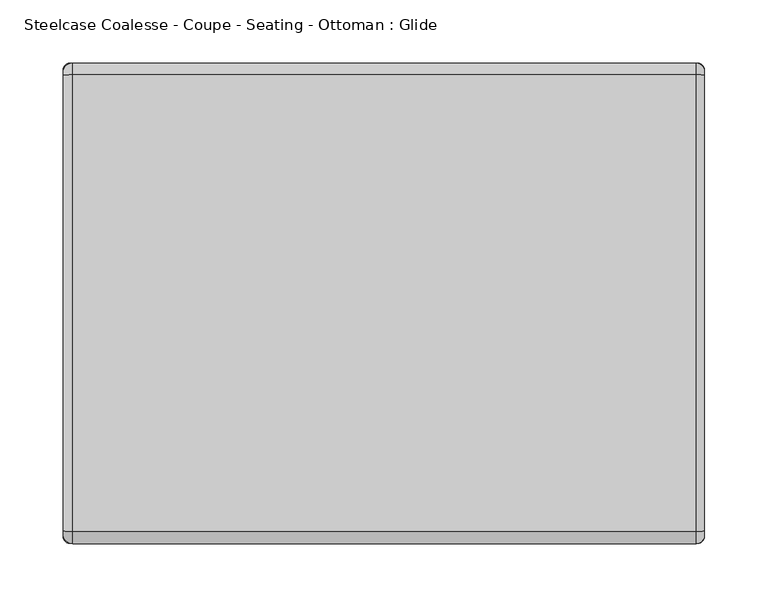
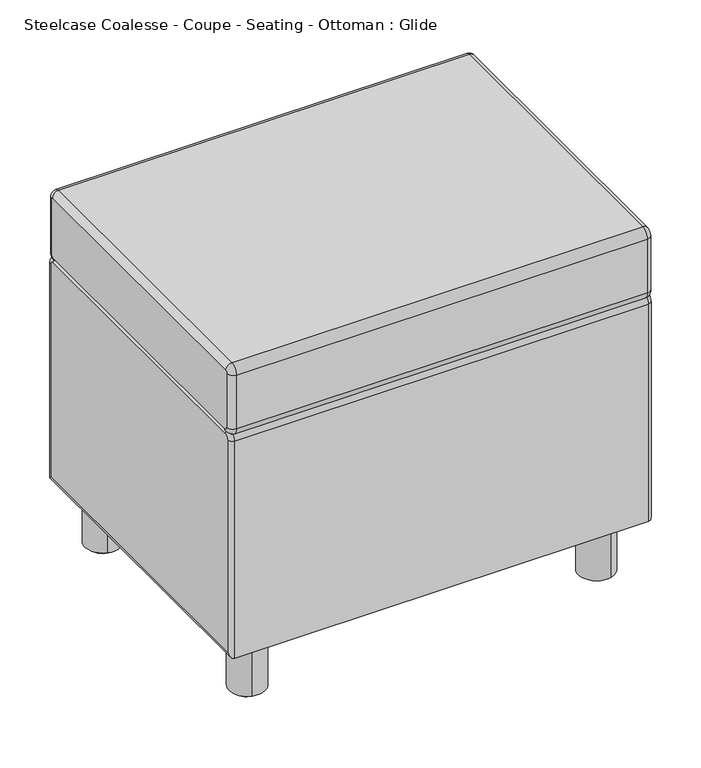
"""IFC4 building model written with IfcOpenShell, lengths in millimetres: furniture geometry, Steelcase Coalesse - Coupe - Seating - Ottoman : Glide."""

from ifc_helpers import new_model, si_unit, point, frame, frame_2d, origin, origin_with_axes, place, context, project, spatial, circle_curve, ellipse_curve, trimmed, segment, composite_curve, outline, extrude, source, transform, mapped, element, save
from ifc_brep_helpers import plane_surface, cylinder_surface, revolved_surface, advanced_brep


def steelcase_coalesse_coupe_seating_ottoman_glide_1e6cc4b7(model_context):
    return source(origin(), model_context, "Body", "SolidModel", [
        advanced_brep(
        [(-414.8226096, 592.0292413, 352.5869305), (-414.8226096, 581.8692849, 362.7468869), (-409.7426096, 581.8692849, 357.6668869), (-409.7426096, 586.9492413, 352.5869305), (-912.6624158, 592.0292413, 352.5869305), (-912.6624158, 581.8692849, 362.7468869), (-917.7424158, 586.9492413, 352.5869305), (-917.7424158, 581.8692849, 357.6668869), (-409.7426096, 586.9492413, 81.5975451), (-414.8226096, 592.0292413, 76.5175451), (-912.6624158, 592.0292413, 76.5175451), (-917.7424158, 586.9492413, 81.5975451), (-409.7426096, 217.1328034, 81.5975451), (-414.8226096, 212.0528034, 76.5175451), (-912.6624158, 212.0528034, 76.5175451), (-917.7424158, 217.1328034, 81.5975451), (-409.7426096, 217.1328034, 352.5869305), (-414.8226096, 212.0528034, 352.5869305), (-912.6624158, 212.0528034, 352.5869305), (-917.7424158, 217.1328034, 352.5869305), (-409.7426096, 222.2127598, 357.6668869), (-414.8226096, 222.2127598, 362.7468869), (-912.6624158, 222.2127598, 362.7468869), (-917.7424158, 222.2127598, 357.6668869)],
        [
            (0, 1, circle_curve(frame((-414.8226096, 581.8692849, 352.5869305), z_axis=(1.0, 0.0, 0.0), x_axis=(0.0, 0.0, 1.0)), 10.1599564)),
            (1, 2, circle_curve(frame((-414.8226096, 581.8692849, 357.6668869), z_axis=(0.0, 1.0, 0.0), x_axis=(0.0, 0.0, -1.0)), 5.08)),
            (2, 3, circle_curve(frame((-409.7426096, 581.8692849, 352.5869305), z_axis=(-1.0, 0.0, 0.0), x_axis=(0.0, 0.0, 1.0)), 5.0799564)),
            (3, 0, circle_curve(frame((-414.8226096, 586.9492413, 352.5869305), z_axis=(0.0, 0.0, 1.0), x_axis=(0.0, -1.0, 0.0)), 5.08)),
            (0, 4),
            (4, 5, circle_curve(frame((-912.6624158, 581.8692849, 352.5869305), z_axis=(1.0, 0.0, 0.0), x_axis=(0.0, 0.0, 1.0)), 10.1599564)),
            (5, 1),
            (4, 6, circle_curve(frame((-912.6624158, 586.9492413, 352.5869305), z_axis=(0.0, 0.0, 1.0), x_axis=(0.0, -1.0, 0.0)), 5.08)),
            (6, 7, circle_curve(frame((-917.7424158, 581.8692849, 352.5869305), z_axis=(1.0, 0.0, 0.0), x_axis=(0.0, 0.0, 1.0)), 5.0799564)),
            (7, 5, circle_curve(frame((-912.6624158, 581.8692849, 357.6668869), z_axis=(0.0, 1.0, 0.0), x_axis=(0.0, 0.0, -1.0)), 5.08)),
            (3, 8),
            (8, 9, ellipse_curve(frame((-414.8226096, 586.9492413, 81.5975451), z_axis=(0.0, 0.7071067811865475, 0.7071067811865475), x_axis=(0.0, -0.7071067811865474, 0.7071067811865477)), 7.1842049, 5.08)),
            (9, 0),
            (9, 10),
            (10, 4),
            (10, 11, ellipse_curve(frame((-912.6624158, 586.9492413, 81.5975451), z_axis=(0.0, 0.7071067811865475, 0.7071067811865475), x_axis=(0.0, -0.7071067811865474, 0.7071067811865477)), 7.1842049, 5.08)),
            (11, 6),
            (8, 12),
            (12, 13, ellipse_curve(frame((-414.8226096, 217.1328034, 81.5975451), z_axis=(0.0, 0.7071067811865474, -0.7071067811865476), x_axis=(0.0, 0.7071067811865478, 0.7071067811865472)), 7.1842049, 5.08)),
            (13, 9),
            (13, 14),
            (14, 10),
            (14, 15, ellipse_curve(frame((-912.6624158, 217.1328034, 81.5975451), z_axis=(0.0, 0.7071067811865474, -0.7071067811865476), x_axis=(0.0, 0.7071067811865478, 0.7071067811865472)), 7.1842049, 5.08)),
            (15, 11),
            (12, 16),
            (16, 17, circle_curve(frame((-414.8226096, 217.1328034, 352.5869305), z_axis=(0.0, 0.0, -1.0), x_axis=(0.0, 1.0, 0.0)), 5.08)),
            (17, 13),
            (17, 18),
            (18, 14),
            (18, 19, circle_curve(frame((-912.6624158, 217.1328034, 352.5869305), z_axis=(0.0, 0.0, -1.0), x_axis=(0.0, 1.0, 0.0)), 5.08)),
            (19, 15),
            (16, 20, circle_curve(frame((-409.7426096, 222.2127598, 352.5869305), z_axis=(-1.0, 0.0, 0.0), x_axis=(0.0, -1.0, 0.0)), 5.0799564)),
            (20, 21, circle_curve(frame((-414.8226096, 222.2127598, 357.6668869), z_axis=(0.0, -1.0, 0.0), x_axis=(0.0, 0.0, -1.0)), 5.08)),
            (21, 17, circle_curve(frame((-414.8226096, 222.2127598, 352.5869305), z_axis=(1.0, 0.0, 0.0), x_axis=(0.0, -1.0, 0.0)), 10.1599564)),
            (21, 22),
            (22, 18, circle_curve(frame((-912.6624158, 222.2127598, 352.5869305), z_axis=(1.0, 0.0, 0.0), x_axis=(0.0, -1.0, 0.0)), 10.1599564)),
            (22, 23, circle_curve(frame((-912.6624158, 222.2127598, 357.6668869), z_axis=(0.0, -1.0, 0.0), x_axis=(0.0, 0.0, -1.0)), 5.08)),
            (23, 19, circle_curve(frame((-917.7424158, 222.2127598, 352.5869305), z_axis=(1.0, 0.0, 0.0), x_axis=(0.0, -1.0, 0.0)), 5.0799564)),
            (2, 20),
            (1, 21),
            (5, 22),
            (7, 23),
        ],
        [
            revolved_surface(trimmed(ellipse_curve(frame((-414.8226096, 581.8692849, 357.6668869), z_axis=(0.0, -1.0, 0.0), x_axis=(0.0, 0.0, -1.0)), 5.08, 5.08), [point((-409.7426096, 581.8692849, 357.6668869))], [point((-414.8226096, 581.8692849, 362.7468869))], True, "CARTESIAN"), (-663.917922, 581.8692849, 352.5869305), (-1.0, 0.0, 0.0)),
            cylinder_surface(frame((-663.917922, 581.8692849, 352.5869305), z_axis=(-1.0, 0.0, 0.0), x_axis=(0.0, 0.0, 1.0)), 10.1599564),
            revolved_surface(trimmed(ellipse_curve(frame((-912.6624158, 581.8692849, 357.6668869), z_axis=(0.0, -1.0, 0.0), x_axis=(0.0, 0.0, -1.0)), 5.08, 5.08), [point((-912.6624158, 581.8692849, 362.7468869))], [point((-917.7424158, 581.8692849, 357.6668869))], True, "CARTESIAN"), (-663.917922, 581.8692849, 352.5869305), (-1.0, 0.0, 0.0)),
            cylinder_surface(frame((-414.8226096, 586.9492413, 352.5869305), z_axis=(0.0, 0.0, 1.0), x_axis=(0.0, -1.0, 0.0)), 5.08),
            plane_surface(frame((-414.8226096, 592.0292413, 352.5869305), z_axis=(0.0, 1.0, 0.0), x_axis=(0.0, 0.0, -1.0))),
            cylinder_surface(frame((-912.6624158, 586.9492413, 352.5869305), z_axis=(0.0, 0.0, 1.0), x_axis=(0.0, -1.0, 0.0)), 5.08),
            cylinder_surface(frame((-414.8226096, 584.4092849, 81.5975451), z_axis=(0.0, 1.0, 0.0), x_axis=(0.0, 0.0, 1.0)), 5.08),
            plane_surface(frame((-414.8226096, 592.0292413, 76.5175451), z_axis=(0.0, 0.0, -1.0), x_axis=(0.0, -1.0, 0.0))),
            cylinder_surface(frame((-912.6624158, 584.4092849, 81.5975451), z_axis=(0.0, 1.0, 0.0), x_axis=(0.0, 0.0, 1.0)), 5.08),
            cylinder_surface(frame((-414.8226096, 217.1328034, 84.1375015), z_axis=(0.0, 0.0, -1.0), x_axis=(0.0, 1.0, 0.0)), 5.08),
            plane_surface(frame((-414.8226096, 212.0528034, 76.5175451), z_axis=(0.0, -1.0, 0.0), x_axis=(0.0, 0.0, 1.0))),
            cylinder_surface(frame((-912.6624158, 217.1328034, 84.1375015), z_axis=(0.0, 0.0, -1.0), x_axis=(0.0, 1.0, 0.0)), 5.08),
            revolved_surface(trimmed(ellipse_curve(frame((-414.8226096, 217.1328034, 352.5869305), z_axis=(0.0, 0.0, -1.0), x_axis=(0.0, 1.0, 0.0)), 5.08, 5.08), [point((-409.7426096, 217.1328034, 352.5869305))], [point((-414.8226096, 212.0528034, 352.5869305))], True, "CARTESIAN"), (-663.917922, 222.2127598, 352.5869305), (-1.0, 0.0, 0.0)),
            cylinder_surface(frame((-663.917922, 222.2127598, 352.5869305), z_axis=(-1.0, 0.0, 0.0), x_axis=(0.0, -1.0, 0.0)), 10.1599564),
            revolved_surface(trimmed(ellipse_curve(frame((-912.6624158, 217.1328034, 352.5869305), z_axis=(0.0, 0.0, -1.0), x_axis=(0.0, 1.0, 0.0)), 5.08, 5.08), [point((-912.6624158, 212.0528034, 352.5869305))], [point((-917.7424158, 217.1328034, 352.5869305))], True, "CARTESIAN"), (-663.917922, 222.2127598, 352.5869305), (-1.0, 0.0, 0.0)),
            plane_surface(frame((-409.7426096, 222.2127598, 355.1269305), z_axis=(1.0, 0.0, 0.0), x_axis=(0.0, 1.0, 0.0))),
            cylinder_surface(frame((-414.8226096, 222.2127598, 357.6668869), z_axis=(0.0, -1.0, 0.0), x_axis=(0.0, 0.0, -1.0)), 5.08),
            plane_surface(frame((-414.8226096, 222.2127598, 362.7468869), z_axis=(0.0, 0.0, 1.0), x_axis=(0.0, 1.0, 0.0))),
            cylinder_surface(frame((-912.6624158, 222.2127598, 357.6668869), z_axis=(0.0, -1.0, 0.0), x_axis=(0.0, 0.0, -1.0)), 5.08),
            plane_surface(frame((-917.7424158, 222.2127598, 357.6668869), z_axis=(-1.0, 0.0, 0.0), x_axis=(0.0, 1.0, 0.0))),
        ],
        [
            (0, [[1, 2, 3, 4]]),
            (1, [[-1, 5, 6, 7]]),
            (2, [[-6, 8, 9, 10]]),
            (3, [[-4, 11, 12, 13]]),
            (4, [[-5, -13, 14, 15]]),
            (5, [[-8, -15, 16, 17]]),
            (6, [[-12, 18, 19, 20]]),
            (7, [[-14, -20, 21, 22]]),
            (8, [[-16, -22, 23, 24]]),
            (9, [[-19, 25, 26, 27]]),
            (10, [[-21, -27, 28, 29]]),
            (11, [[-23, -29, 30, 31]]),
            (12, [[-26, 32, 33, 34]]),
            (13, [[-28, -34, 35, 36]]),
            (14, [[-30, -36, 37, 38]]),
            (15, [[-3, 39, -32, -25, -18, -11]]),
            (16, [[-2, 40, -33, -39]]),
            (17, [[-7, 41, -35, -40]]),
            (18, [[-10, 42, -37, -41]]),
            (19, [[-9, -17, -24, -31, -38, -42]]),
        ],
    ),
        advanced_brep(
        [(-409.7426096, 223.823068, 361.8543153), (-416.0926096, 223.823068, 355.5043153), (-910.1952947, 223.823068, 355.5043153), (-917.7424158, 223.823068, 363.0514364), (-917.7424158, 223.823068, 363.2772809), (-409.7426096, 223.823068, 363.2772809), (-409.7426096, 218.2497942, 367.4275892), (-409.7426096, 580.2589766, 363.2772809), (-409.7426096, 580.2589766, 361.8543153), (-409.7426096, 585.8322505, 367.4275892), (-409.7426096, 585.8322505, 435.7510942), (-409.7426096, 582.2770292, 439.6930278), (-409.7426096, 221.8050154, 439.6930278), (-409.7426096, 218.2497942, 435.7510942), (-416.0926096, 211.8997942, 367.4275892), (-910.1952947, 211.8997942, 367.4275892), (-917.7424158, 219.4469153, 367.4275892), (-917.7424158, 219.4469153, 435.7510942), (-917.7424158, 221.9281856, 438.50226), (-917.7424158, 582.153859, 438.50226), (-917.7424158, 584.6351294, 435.7510942), (-917.7424158, 584.6351294, 367.4275892), (-917.7424158, 580.2589766, 363.0514364), (-917.7424158, 580.2589766, 363.2772809), (-416.0926096, 211.8997942, 435.7510942), (-910.1952947, 211.8997942, 435.7510942), (-416.0926096, 221.1516723, 446.0093276), (-910.1952947, 221.1516723, 446.0093276), (-416.0926096, 582.9303724, 446.0093276), (-910.1952947, 582.9303724, 446.0093276), (-416.0926096, 592.1822505, 435.7510942), (-910.1952947, 592.1822505, 435.7510942), (-416.0926096, 592.1822505, 367.4275892), (-910.1952947, 592.1822505, 367.4275892), (-910.1952947, 580.2589766, 355.5043153), (-416.0926096, 580.2589766, 355.5043153)],
        [
            (0, 1, circle_curve(frame((-416.0926096, 223.823068, 361.8543153), z_axis=(0.0, 1.0, 0.0), x_axis=(0.0, 0.0, -1.0)), 6.35)),
            (1, 2),
            (2, 3, circle_curve(frame((-910.1952947, 223.823068, 363.0514364), z_axis=(0.0, 1.0, 0.0), x_axis=(0.0, 0.0, -1.0)), 7.5471211)),
            (3, 4),
            (4, 5),
            (5, 0),
            (6, 0, circle_curve(frame((-409.7426096, 223.823068, 367.4275892), z_axis=(1.0, 0.0, 0.0), x_axis=(0.0, 0.0, -1.0)), 5.5732738)),
            (5, 7),
            (7, 8),
            (8, 9, circle_curve(frame((-409.7426096, 580.2589766, 367.4275892), z_axis=(1.0, 0.0, 0.0), x_axis=(0.0, 1.0, 0.0)), 5.5732738)),
            (9, 10),
            (10, 11, circle_curve(frame((-409.7426096, 581.8692849, 435.7510942), z_axis=(1.0, 0.0, 0.0), x_axis=(0.0, 0.10288868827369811, 0.9946928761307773)), 3.9629656)),
            (11, 12, circle_curve(frame((-409.7426096, 402.0410223, -1302.7674418), z_axis=(1.0, 0.0, 0.0), x_axis=(0.0, -0.1028886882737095, 0.9946928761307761)), 1751.7572624)),
            (12, 13, circle_curve(frame((-409.7426096, 222.2127598, 435.7510942), z_axis=(1.0, 0.0, 0.0), x_axis=(0.0, -1.0, 0.0)), 3.9629656)),
            (13, 6),
            (6, 14, circle_curve(frame((-416.0926096, 218.2497942, 367.4275892), z_axis=(0.0, 0.0, -1.0), x_axis=(0.0, -1.0, 0.0)), 6.35)),
            (14, 1, circle_curve(frame((-416.0926096, 223.823068, 367.4275892), z_axis=(1.0, 0.0, 0.0), x_axis=(0.0, 0.0, -1.0)), 11.9232738)),
            (14, 15),
            (15, 2, circle_curve(frame((-910.1952947, 223.823068, 367.4275892), z_axis=(1.0, 0.0, 0.0), x_axis=(0.0, 0.0, -1.0)), 11.9232738)),
            (15, 16, circle_curve(frame((-910.1952947, 219.4469153, 367.4275892), z_axis=(0.0, 0.0, -1.0), x_axis=(0.0, -1.0, 0.0)), 7.5471211)),
            (16, 3, circle_curve(frame((-917.7424158, 223.823068, 367.4275892), z_axis=(1.0, 0.0, 0.0), x_axis=(0.0, 0.0, -1.0)), 4.3761528)),
            (16, 17),
            (17, 18, circle_curve(frame((-917.7424158, 222.2127598, 435.7510942), z_axis=(-1.0, 0.0, 0.0), x_axis=(0.0, -1.0, 0.0)), 2.7658445)),
            (18, 19, circle_curve(frame((-917.7424158, 402.0410223, -1302.7674418), z_axis=(-1.0, 0.0, 0.0), x_axis=(0.0, -0.1028886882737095, 0.9946928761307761)), 1750.5601414)),
            (19, 20, circle_curve(frame((-917.7424158, 581.8692849, 435.7510942), z_axis=(-1.0, 0.0, 0.0), x_axis=(0.0, 0.10288868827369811, 0.9946928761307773)), 2.7658445)),
            (20, 21),
            (21, 22, circle_curve(frame((-917.7424158, 580.2589766, 367.4275892), z_axis=(-1.0, 0.0, 0.0), x_axis=(0.0, 1.0, 0.0)), 4.3761528)),
            (22, 23),
            (23, 4),
            (13, 24, circle_curve(frame((-416.0926096, 218.2497942, 435.7510942), z_axis=(0.0, 0.0, -1.0), x_axis=(0.0, -1.0, 0.0)), 6.35)),
            (24, 14),
            (24, 25),
            (25, 15),
            (25, 17, circle_curve(frame((-910.1952947, 219.4469153, 435.7510942), z_axis=(0.0, 0.0, -1.0), x_axis=(0.0, -1.0, 0.0)), 7.5471211)),
            (12, 26, circle_curve(frame((-416.0926096, 221.8050154, 439.6930278), z_axis=(0.0, -0.994692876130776, -0.10288868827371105), x_axis=(0.0, -0.10288868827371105, 0.994692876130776)), 6.35)),
            (26, 24, circle_curve(frame((-416.0926096, 222.2127598, 435.7510942), z_axis=(1.0, 0.0, 0.0), x_axis=(0.0, -1.0, 0.0)), 10.3129656)),
            (26, 27),
            (27, 25, circle_curve(frame((-910.1952947, 222.2127598, 435.7510942), z_axis=(1.0, 0.0, 0.0), x_axis=(0.0, -1.0, 0.0)), 10.3129656)),
            (27, 18, circle_curve(frame((-910.1952947, 221.9281856, 438.50226), z_axis=(0.0, -0.9946928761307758, -0.10288868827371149), x_axis=(0.0, -0.10288868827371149, 0.9946928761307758)), 7.5471211)),
            (11, 28, circle_curve(frame((-416.0926096, 582.2770292, 439.6930278), z_axis=(0.0, -0.9946928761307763, 0.10288868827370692), x_axis=(0.0, 0.10288868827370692, 0.9946928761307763)), 6.35)),
            (28, 26, circle_curve(frame((-416.0926096, 402.0410223, -1302.7674418), z_axis=(1.0, 0.0, 0.0), x_axis=(0.0, -0.1028886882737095, 0.9946928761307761)), 1758.1072624)),
            (28, 29),
            (29, 27, circle_curve(frame((-910.1952947, 402.0410223, -1302.7674418), z_axis=(1.0, 0.0, 0.0), x_axis=(0.0, -0.1028886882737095, 0.9946928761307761)), 1758.1072624)),
            (29, 19, circle_curve(frame((-910.1952947, 582.153859, 438.50226), z_axis=(0.0, -0.9946928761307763, 0.1028886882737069), x_axis=(0.0, 0.1028886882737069, 0.9946928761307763)), 7.5471211)),
            (10, 30, circle_curve(frame((-416.0926096, 585.8322505, 435.7510942), z_axis=(0.0, 0.0, 1.0), x_axis=(0.0, 1.0, 0.0)), 6.35)),
            (30, 28, circle_curve(frame((-416.0926096, 581.8692849, 435.7510942), z_axis=(1.0, 0.0, 0.0), x_axis=(0.0, 0.10288868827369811, 0.9946928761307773)), 10.3129656)),
            (30, 31),
            (31, 29, circle_curve(frame((-910.1952947, 581.8692849, 435.7510942), z_axis=(1.0, 0.0, 0.0), x_axis=(0.0, 0.10288868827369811, 0.9946928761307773)), 10.3129656)),
            (31, 20, circle_curve(frame((-910.1952947, 584.6351294, 435.7510942), z_axis=(0.0, 0.0, 1.0), x_axis=(0.0, 1.0, 0.0)), 7.5471211)),
            (9, 32, circle_curve(frame((-416.0926096, 585.8322505, 367.4275892), z_axis=(0.0, 0.0, 1.0), x_axis=(0.0, 1.0, 0.0)), 6.35)),
            (32, 30),
            (32, 33),
            (33, 31),
            (33, 21, circle_curve(frame((-910.1952947, 584.6351294, 367.4275892), z_axis=(0.0, 0.0, 1.0), x_axis=(0.0, 1.0, 0.0)), 7.5471211)),
            (22, 34, circle_curve(frame((-910.1952947, 580.2589766, 363.0514364), z_axis=(0.0, -1.0, 0.0), x_axis=(0.0, 0.0, -1.0)), 7.5471211)),
            (34, 35),
            (35, 8, circle_curve(frame((-416.0926096, 580.2589766, 361.8543153), z_axis=(0.0, -1.0, 0.0), x_axis=(0.0, 0.0, -1.0)), 6.35)),
            (7, 23),
            (35, 32, circle_curve(frame((-416.0926096, 580.2589766, 367.4275892), z_axis=(1.0, 0.0, 0.0), x_axis=(0.0, 1.0, 0.0)), 11.9232738)),
            (34, 33, circle_curve(frame((-910.1952947, 580.2589766, 367.4275892), z_axis=(1.0, 0.0, 0.0), x_axis=(0.0, 1.0, 0.0)), 11.9232738)),
        ],
        [
            plane_surface(frame((-663.917922, 223.823068, 363.2772809), z_axis=(0.0, 1.0, 0.0), x_axis=(1.0, 0.0, 0.0))),
            plane_surface(frame((-409.7426096, 223.823068, 367.4275892), z_axis=(1.0, 0.0, 0.0), x_axis=(0.0, 0.0, -1.0))),
            revolved_surface(trimmed(ellipse_curve(frame((-416.0926096, 223.823068, 361.8543153), z_axis=(0.0, 1.0, 0.0), x_axis=(0.0, 0.0, -1.0)), 6.35, 6.35), [point((-409.7426096, 223.823068, 361.8543153))], [point((-416.0926096, 223.823068, 355.5043153))], True, "CARTESIAN"), (-663.917922, 223.823068, 367.4275892), (-1.0, 0.0, 0.0)),
            cylinder_surface(frame((-663.917922, 223.823068, 367.4275892), z_axis=(-1.0, 0.0, 0.0), x_axis=(0.0, 0.0, -1.0)), 11.9232738),
            revolved_surface(trimmed(ellipse_curve(frame((-910.1952947, 223.823068, 363.0514364), z_axis=(0.0, 1.0, 0.0), x_axis=(0.0, 0.0, -1.0)), 7.5471211, 7.5471211), [point((-910.1952947, 223.823068, 355.5043153))], [point((-917.7424158, 223.823068, 363.0514364))], True, "CARTESIAN"), (-663.917922, 223.823068, 367.4275892), (-1.0, 0.0, 0.0)),
            plane_surface(frame((-917.7424158, 223.823068, 367.4275892), z_axis=(-1.0, 0.0, 0.0), x_axis=(0.0, 0.0, -1.0))),
            cylinder_surface(frame((-416.0926096, 218.2497942, 367.4275892), z_axis=(0.0, 0.0, -1.0), x_axis=(0.0, -1.0, 0.0)), 6.35),
            plane_surface(frame((-416.0926096, 211.8997942, 367.4275892), z_axis=(0.0, -1.0, 0.0), x_axis=(0.0, 0.0, 1.0))),
            cylinder_surface(frame((-910.1952947, 219.4469153, 367.4275892), z_axis=(0.0, 0.0, -1.0), x_axis=(0.0, -1.0, 0.0)), 7.5471211),
            revolved_surface(trimmed(ellipse_curve(frame((-416.0926096, 218.2497942, 435.7510942), z_axis=(0.0, 0.0, -1.0), x_axis=(0.0, -1.0, 0.0)), 6.35, 6.35), [point((-409.7426096, 218.2497942, 435.7510942))], [point((-416.0926096, 211.8997942, 435.7510942))], True, "CARTESIAN"), (-663.917922, 222.2127598, 435.7510942), (-1.0, 0.0, 0.0)),
            cylinder_surface(frame((-663.917922, 222.2127598, 435.7510942), z_axis=(-1.0, 0.0, 0.0), x_axis=(0.0, -1.0, 0.0)), 10.3129656),
            revolved_surface(trimmed(ellipse_curve(frame((-910.1952947, 219.4469153, 435.7510942), z_axis=(0.0, 0.0, -1.0), x_axis=(0.0, -1.0, 0.0)), 7.5471211, 7.5471211), [point((-910.1952947, 211.8997942, 435.7510942))], [point((-917.7424158, 219.4469153, 435.7510942))], True, "CARTESIAN"), (-663.917922, 222.2127598, 435.7510942), (-1.0, 0.0, 0.0)),
            revolved_surface(trimmed(ellipse_curve(frame((-416.0926096, 221.8050154, 439.6930278), z_axis=(0.0, -0.9946928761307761, -0.1028886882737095), x_axis=(0.0, -0.1028886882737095, 0.9946928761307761)), 6.35, 6.35), [point((-409.7426096, 221.8050154, 439.6930278))], [point((-416.0926096, 221.1516723, 446.0093276))], True, "CARTESIAN"), (-663.917922, 402.0410223, -1302.7674418), (-1.0, 0.0, 0.0)),
            cylinder_surface(frame((-663.917922, 402.0410223, -1302.7674418), z_axis=(-1.0, 0.0, 0.0), x_axis=(0.0, -0.1028886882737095, 0.9946928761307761)), 1758.1072624),
            revolved_surface(trimmed(ellipse_curve(frame((-910.1952947, 221.9281856, 438.50226), z_axis=(0.0, -0.9946928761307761, -0.1028886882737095), x_axis=(0.0, -0.1028886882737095, 0.9946928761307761)), 7.5471211, 7.5471211), [point((-910.1952947, 221.1516723, 446.0093276))], [point((-917.7424158, 221.9281856, 438.50226))], True, "CARTESIAN"), (-663.917922, 402.0410223, -1302.7674418), (-1.0, 0.0, 0.0)),
            revolved_surface(trimmed(ellipse_curve(frame((-416.0926096, 582.2770292, 439.6930278), z_axis=(0.0, -0.9946928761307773, 0.10288868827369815), x_axis=(0.0, 0.10288868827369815, 0.9946928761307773)), 6.35, 6.35), [point((-409.7426096, 582.2770292, 439.6930278))], [point((-416.0926096, 582.9303724, 446.0093276))], True, "CARTESIAN"), (-663.917922, 581.8692849, 435.7510942), (-1.0, 0.0, 0.0)),
            cylinder_surface(frame((-663.917922, 581.8692849, 435.7510942), z_axis=(-1.0, 0.0, 0.0), x_axis=(0.0, 0.10288868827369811, 0.9946928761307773)), 10.3129656),
            revolved_surface(trimmed(ellipse_curve(frame((-910.1952947, 582.153859, 438.50226), z_axis=(0.0, -0.9946928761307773, 0.10288868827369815), x_axis=(0.0, 0.10288868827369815, 0.9946928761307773)), 7.5471211, 7.5471211), [point((-910.1952947, 582.9303724, 446.0093276))], [point((-917.7424158, 582.153859, 438.50226))], True, "CARTESIAN"), (-663.917922, 581.8692849, 435.7510942), (-1.0, 0.0, 0.0)),
            cylinder_surface(frame((-416.0926096, 585.8322505, 435.7510942), z_axis=(0.0, 0.0, 1.0), x_axis=(0.0, 1.0, 0.0)), 6.35),
            plane_surface(frame((-416.0926096, 592.1822505, 435.7510942), z_axis=(0.0, 1.0, 0.0), x_axis=(0.0, 0.0, -1.0))),
            cylinder_surface(frame((-910.1952947, 584.6351294, 435.7510942), z_axis=(0.0, 0.0, 1.0), x_axis=(0.0, 1.0, 0.0)), 7.5471211),
            plane_surface(frame((-663.917922, 580.2589766, 363.2772809), z_axis=(0.0, -1.0, 0.0), x_axis=(1.0, 0.0, 0.0))),
            revolved_surface(trimmed(ellipse_curve(frame((-416.0926096, 585.8322505, 367.4275892), z_axis=(0.0, 0.0, 1.0), x_axis=(0.0, 1.0, 0.0)), 6.35, 6.35), [point((-409.7426096, 585.8322505, 367.4275892))], [point((-416.0926096, 592.1822505, 367.4275892))], True, "CARTESIAN"), (-663.917922, 580.2589766, 367.4275892), (-1.0, 0.0, 0.0)),
            cylinder_surface(frame((-663.917922, 580.2589766, 367.4275892), z_axis=(-1.0, 0.0, 0.0), x_axis=(0.0, 1.0, 0.0)), 11.9232738),
            revolved_surface(trimmed(ellipse_curve(frame((-910.1952947, 584.6351294, 367.4275892), z_axis=(0.0, 0.0, 1.0), x_axis=(0.0, 1.0, 0.0)), 7.5471211, 7.5471211), [point((-910.1952947, 592.1822505, 367.4275892))], [point((-917.7424158, 584.6351294, 367.4275892))], True, "CARTESIAN"), (-663.917922, 580.2589766, 367.4275892), (-1.0, 0.0, 0.0)),
            plane_surface(frame((-917.7424158, 580.2589766, 363.2772809), z_axis=(0.0, 0.0, -1.0), x_axis=(1.0, 0.0, 0.0))),
        ],
        [
            (0, [[1, 2, 3, 4, 5, 6]]),
            (1, [[7, -6, 8, 9, 10, 11, 12, 13, 14, 15]]),
            (2, [[-1, -7, 16, 17]]),
            (3, [[-2, -17, 18, 19]]),
            (4, [[-3, -19, 20, 21]]),
            (5, [[-21, 22, 23, 24, 25, 26, 27, 28, 29, -4]]),
            (6, [[-15, 30, 31, -16]]),
            (7, [[-18, -31, 32, 33]]),
            (8, [[-20, -33, 34, -22]]),
            (9, [[-14, 35, 36, -30]]),
            (10, [[-32, -36, 37, 38]]),
            (11, [[-23, -34, -38, 39]]),
            (12, [[-13, 40, 41, -35]]),
            (13, [[-37, -41, 42, 43]]),
            (14, [[-24, -39, -43, 44]]),
            (15, [[-12, 45, 46, -40]]),
            (16, [[-42, -46, 47, 48]]),
            (17, [[-25, -44, -48, 49]]),
            (18, [[-11, 50, 51, -45]]),
            (19, [[-47, -51, 52, 53]]),
            (20, [[-26, -49, -53, 54]]),
            (21, [[55, 56, 57, -9, 58, -28]]),
            (22, [[-10, -57, 59, -50]]),
            (23, [[-52, -59, -56, 60]]),
            (24, [[-27, -54, -60, -55]]),
            (25, [[-29, -58, -8, -5]]),
        ],
    ),
        extrude(outline(composite_curve([segment(trimmed(circle_curve(frame_2d((-454.0067391, 553.7090519)), 21.59), [point((-447.9563104, 532.9841776))], [point((-460.0571678, 574.4339261))], False, "CARTESIAN"), True, "CONTINUOUS"), segment(trimmed(circle_curve(frame_2d((-454.0067391, 553.7090519)), 21.59), [point((-460.0571678, 574.4339261))], [point((-447.9563104, 532.9841776))], False, "CARTESIAN"), True, "CONTINUOUS")], self_intersect=False)), frame((0.0, 0.0, 4.6271825), z_axis=(0.0, 0.0, 1.0), x_axis=(1.0, 0.0, 0.0)), (0.0, 0.0, 1.0), 75.4714879),
        extrude(outline(composite_curve([segment(trimmed(circle_curve(frame_2d((-454.0067391, 253.350568)), 21.59), [point((-447.9563104, 232.6256938))], [point((-460.0571678, 274.0754423))], False, "CARTESIAN"), True, "CONTINUOUS"), segment(trimmed(circle_curve(frame_2d((-454.0067391, 253.350568)), 21.59), [point((-460.0571678, 274.0754423))], [point((-447.9563104, 232.6256938))], False, "CARTESIAN"), True, "CONTINUOUS")], self_intersect=False)), frame((0.0, 0.0, 4.6271825), z_axis=(0.0, 0.0, 1.0), x_axis=(1.0, 0.0, 0.0)), (0.0, 0.0, 1.0), 75.4714879),
        extrude(outline(composite_curve([segment(trimmed(circle_curve(frame_2d((-873.8291048, 553.7090519)), 21.59), [point((-879.8795336, 532.9841776))], [point((-867.7786761, 574.4339261))], False, "CARTESIAN"), True, "CONTINUOUS"), segment(trimmed(circle_curve(frame_2d((-873.8291048, 553.7090519)), 21.59), [point((-867.7786761, 574.4339261))], [point((-879.8795336, 532.9841776))], False, "CARTESIAN"), True, "CONTINUOUS")], self_intersect=False)), frame((0.0, 0.0, 4.6271825), z_axis=(0.0, 0.0, 1.0), x_axis=(1.0, 0.0, 0.0)), (0.0, 0.0, 1.0), 75.4714879),
        extrude(outline(composite_curve([segment(trimmed(circle_curve(frame_2d((-873.8291048, 253.350568)), 21.59), [point((-879.8795336, 232.6256938))], [point((-867.7786761, 274.0754423))], False, "CARTESIAN"), True, "CONTINUOUS"), segment(trimmed(circle_curve(frame_2d((-873.8291048, 253.350568)), 21.59), [point((-867.7786761, 274.0754423))], [point((-879.8795336, 232.6256938))], False, "CARTESIAN"), True, "CONTINUOUS")], self_intersect=False)), frame((0.0, 0.0, 4.6271825), z_axis=(0.0, 0.0, 1.0), x_axis=(1.0, 0.0, 0.0)), (0.0, 0.0, 1.0), 75.4714879),
        extrude(outline(composite_curve([segment(trimmed(circle_curve(frame_2d((-453.376463, 553.4896629)), 15.24), [point((-449.1055721, 538.8603399))], [point((-457.6473538, 568.1189859))], False, "CARTESIAN"), True, "CONTINUOUS"), segment(trimmed(circle_curve(frame_2d((-453.376463, 553.4896629)), 15.24), [point((-457.6473538, 568.1189859))], [point((-449.1055721, 538.8603399))], False, "CARTESIAN"), True, "CONTINUOUS")], self_intersect=False)), origin_with_axes(), (0.0, 0.0, 1.0), 4.6271825),
        extrude(outline(composite_curve([segment(trimmed(circle_curve(frame_2d((-453.376463, 253.3597698)), 15.24), [point((-449.1055721, 238.7304468))], [point((-457.6473538, 267.9890928))], False, "CARTESIAN"), True, "CONTINUOUS"), segment(trimmed(circle_curve(frame_2d((-453.376463, 253.3597698)), 15.24), [point((-457.6473538, 267.9890928))], [point((-449.1055721, 238.7304468))], False, "CARTESIAN"), True, "CONTINUOUS")], self_intersect=False)), origin_with_axes(), (0.0, 0.0, 1.0), 4.6271825),
        extrude(outline(composite_curve([segment(trimmed(circle_curve(frame_2d((-874.459381, 553.4896629)), 15.24), [point((-878.7302719, 538.8603399))], [point((-870.1884901, 568.1189859))], False, "CARTESIAN"), True, "CONTINUOUS"), segment(trimmed(circle_curve(frame_2d((-874.459381, 553.4896629)), 15.24), [point((-870.1884901, 568.1189859))], [point((-878.7302719, 538.8603399))], False, "CARTESIAN"), True, "CONTINUOUS")], self_intersect=False)), origin_with_axes(), (0.0, 0.0, 1.0), 4.6271825),
        extrude(outline(composite_curve([segment(trimmed(circle_curve(frame_2d((-874.459381, 253.3597698)), 15.24), [point((-878.7302719, 238.7304468))], [point((-870.1884901, 267.9890928))], False, "CARTESIAN"), True, "CONTINUOUS"), segment(trimmed(circle_curve(frame_2d((-874.459381, 253.3597698)), 15.24), [point((-870.1884901, 267.9890928))], [point((-878.7302719, 238.7304468))], False, "CARTESIAN"), True, "CONTINUOUS")], self_intersect=False)), origin_with_axes(), (0.0, 0.0, 1.0), 4.6271825),
    ])


if __name__ == "__main__":
    model = new_model("IFC4")
    model_context = context("Model", 3, world=origin())
    ifc_project = project(units=[si_unit("LENGTHUNIT", "METRE", prefix="MILLI")], contexts=[model_context])
    site = spatial("IfcSite", under=ifc_project)
    building = spatial("IfcBuilding", under=site)
    placement = place(None, origin())
    steelcase_coalesse_coupe_seating_ottoman_glide_shape = steelcase_coalesse_coupe_seating_ottoman_glide_1e6cc4b7(model_context)
    element("IfcFurniture", 1, ObjectType="Steelcase Coalesse - Coupe - Seating - Ottoman : Glide", at=placement, inside=building, context=model_context, shape_type="MappedRepresentation", body=[
        mapped(steelcase_coalesse_coupe_seating_ottoman_glide_shape, transform((0.0, 0.0, 0.0), x_axis=(1.0, 0.0, 0.0), y_axis=(0.0, 1.0, 0.0), z_axis=(0.0, 0.0, 1.0))),
    ])
    save(model, "model.ifc")
